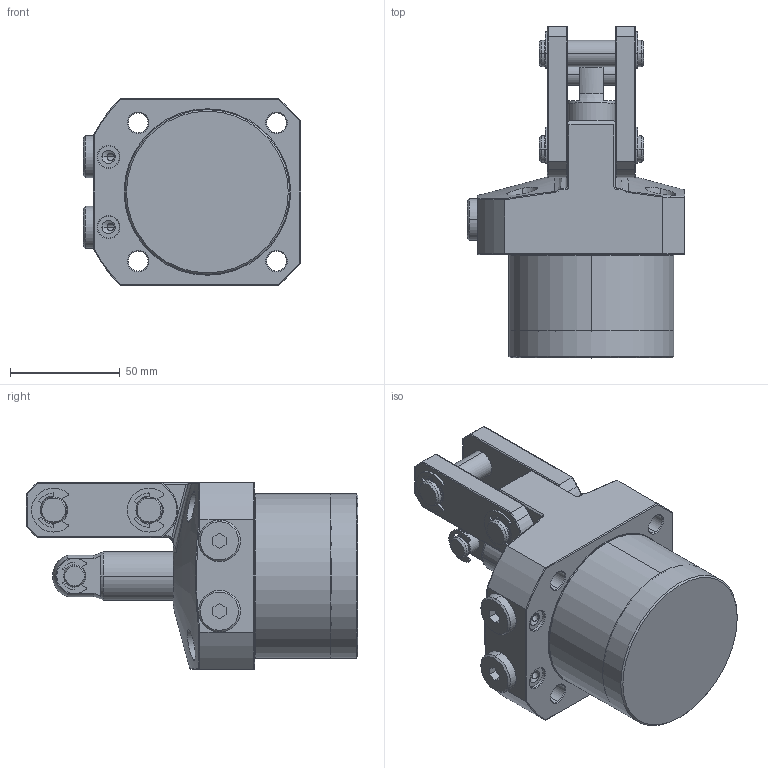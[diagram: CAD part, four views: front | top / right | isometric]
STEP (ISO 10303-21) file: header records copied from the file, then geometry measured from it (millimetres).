
FILE_DESCRIPTION(/* description */ (''),/* implementation_level */ '2;1');
FILE_NAME(/* name */ 'KTPC75-R.stp',/* time_stamp */ '2022-11-18T15:40:33+08:00',/* author */ (''),/* organization */ (''),/* preprocessor_version */ 'ST-DEVELOPER v16.7',/* originating_system */ 'SIEMENS PLM Software NX 12.0',/* authorisation */ '');
FILE_SCHEMA (('AP203_CONFIGURATION_CONTROLLED_3D_DESIGN_OF_MECHANICAL_PARTS_AND_ASSEMBLIES_MIM_LF { 1 0 10303 403 2 1 2}'));
Length unit declared in the file: millimetre
Products named in the file (10): KTPC75-R-07; KTPC75-R-01; KTPC75-R-03; KTPC75-R-09; KTPC75-R-06; KTPC75-R-04; KTPC75-R-05; KTPC75-R-02; KTPC75-R-08; LKA0750-CR_step
Assembly tree (16 placements, depth 2):
  LKA0750-CR_step
    KTPC75-R-08  x4
    KTPC75-R-02
    KTPC75-R-05  x2
    KTPC75-R-04  x2
    KTPC75-R-06  x2
    KTPC75-R-09  x2
    KTPC75-R-03
    KTPC75-R-01
    KTPC75-R-07
Bounding box: 99 x 151 x 85 mm (x, y, z)
Volume: 663530.9 mm3; surface area: 84352.8 mm2
Topology: 16 solids, 16 shells, 557 faces, 1343 edges, 840 vertices
Faces by surface type: cylinder 260, plane 147, cone 67, torus 64, bspline 17, sphere 2
Full cylindrical faces by diameter (mm): 75 x1
Entity records: 12550 total; most frequent: CARTESIAN_POINT 3102, DIRECTION 1787, ORIENTED_EDGE 1646, EDGE_CURVE 823, AXIS2_PLACEMENT_3D 733, VERTEX_POINT 510, EDGE_LOOP 389, CIRCLE 383
